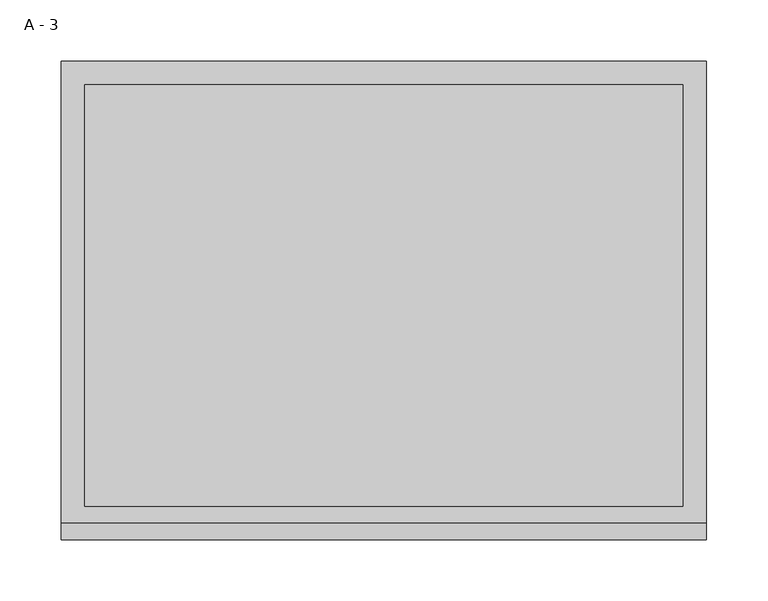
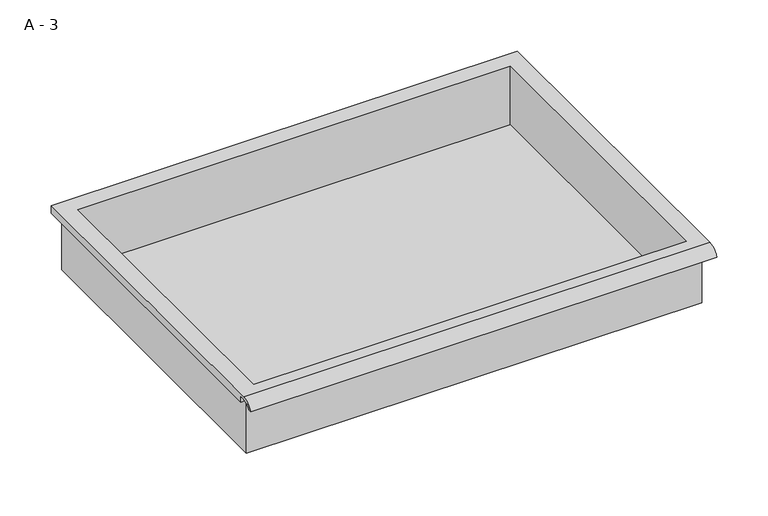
"""IFC4 building model written with IfcOpenShell, lengths in millimetres: furniture geometry, HermanMiller_CoStruc_CO207_Drawer : A - 3."""

from ifc_helpers import new_model, si_unit, frame, origin, place, context, project, spatial, polyline, circle_curve, source, transform, mapped, element, save
from ifc_brep_helpers import plane_surface, cylinder_surface, revolved_surface, advanced_brep


def a_3_65d9b637(model_context):
    return source(origin(), model_context, "Body", "AdvancedBrep", [
        advanced_brep(
        [(-257.1076517, -176.2125, 698.4111), (257.2423483, -176.2125, 698.4111), (257.2423483, -176.2125, 761.9111), (263.5923483, -176.2125, 761.9111), (263.5923483, -176.2125, 768.2182341), (-263.4576517, -176.2125, 768.2182341), (-263.4576517, -176.2125, 761.9111), (-257.1076517, -176.2125, 761.9111), (257.2423483, 185.7375, 698.4111), (-257.1076517, 185.7375, 698.4111), (-257.1076517, 185.7375, 761.9111), (257.2423483, 185.7375, 761.9111), (263.5923483, -181.6070544, 771.4361), (263.5923483, 195.2625, 771.4361), (-263.4576517, 195.2625, 771.4361), (-263.4576517, -181.6070544, 771.4361), (244.5423483, -168.275, 771.4361), (-244.4076517, -168.275, 771.4361), (-244.4076517, 176.2125, 771.4361), (244.5423483, 176.2125, 771.4361), (263.5923483, -195.2625, 761.9111), (263.5923483, -191.8280601, 761.9111), (263.5923483, -180.4714815, 768.2182341), (263.5923483, 195.2625, 761.9111), (-263.4576517, 195.2625, 761.9111), (-263.4576517, -180.4714815, 768.2182341), (-263.4576517, -191.8280601, 761.9111), (-263.4576517, -195.2625, 761.9111), (-244.4076517, -168.275, 701.4372719), (244.5423483, -168.275, 701.4372719), (244.5423483, 176.2125, 701.4372719), (-244.4076517, 176.2125, 701.4372719)],
        [
            (0, 1),
            (1, 2),
            (2, 3),
            (3, 4),
            (4, 5),
            (5, 6),
            (6, 7),
            (7, 0),
            (8, 9),
            (9, 10),
            (10, 11),
            (11, 8),
            (0, 9),
            (8, 1),
            (11, 2),
            (12, 13),
            (13, 14),
            (14, 15),
            (15, 12),
            (16, 17),
            (17, 18),
            (18, 19),
            (19, 16),
            (7, 10),
            (12, 20, circle_curve(frame((263.5923483, -181.6070544, 756.8850859), z_axis=(1.0, 0.0, 0.0), x_axis=(0.0, 1.0, 0.0)), 14.5510141)),
            (20, 21),
            (21, 22, circle_curve(frame((263.5923483, -181.6070544, 756.8850859), z_axis=(-1.0, 0.0, 0.0), x_axis=(0.0, 1.0, 0.0)), 11.3898979)),
            (22, 4),
            (3, 23),
            (23, 13),
            (14, 24),
            (24, 6),
            (5, 25),
            (25, 26, circle_curve(frame((-263.4576517, -181.6070544, 756.8850859), z_axis=(1.0, 0.0, 0.0), x_axis=(0.0, 1.0, 0.0)), 11.3898979)),
            (26, 27),
            (27, 15, circle_curve(frame((-263.4576517, -181.6070544, 756.8850859), z_axis=(-1.0, 0.0, 0.0), x_axis=(0.0, 1.0, 0.0)), 14.5510141)),
            (27, 20),
            (26, 21),
            (25, 22),
            (24, 23),
            (28, 29),
            (29, 30),
            (30, 31),
            (31, 28),
            (28, 17),
            (16, 29),
            (19, 30),
            (18, 31),
        ],
        [
            plane_surface(frame((257.2423483, -176.2125, 698.4111), z_axis=(0.0, -1.0, 0.0), x_axis=(1.0, 0.0, 0.0))),
            plane_surface(frame((257.2423483, 185.7375, 698.4111), z_axis=(0.0, 1.0, 0.0), x_axis=(-1.0, 0.0, 0.0))),
            plane_surface(frame((-257.1076517, -176.2125, 698.4111), z_axis=(0.0, 0.0, -1.0), x_axis=(0.0, 1.0, 0.0))),
            plane_surface(frame((257.2423483, -176.2125, 698.4111), z_axis=(1.0, 0.0, 0.0), x_axis=(0.0, 1.0, 0.0))),
            plane_surface(frame((257.2423483, -176.2125, 771.4361), z_axis=(0.0, 0.0, 1.0), x_axis=(0.0, 1.0, 0.0))),
            plane_surface(frame((-257.1076517, -176.2125, 771.4361), z_axis=(-1.0, 0.0, 0.0), x_axis=(0.0, 1.0, 0.0))),
            plane_surface(frame((263.5923483, 195.2625, 771.4361), z_axis=(1.0, 0.0, 0.0), x_axis=(0.0, -1.0, 0.0))),
            plane_surface(frame((-263.4576517, 195.2625, 771.4361), z_axis=(-1.0, 0.0, 0.0), x_axis=(0.0, 1.0, 0.0))),
            cylinder_surface(frame((-263.4576517, -181.6070544, 756.8850859), z_axis=(1.0, 0.0, 0.0), x_axis=(0.0, 1.0, 0.0)), 14.5510141),
            plane_surface(frame((263.5923483, -195.2625, 761.9111), z_axis=(0.0, -7.291233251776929e-12, -1.0), x_axis=(-1.0, 0.0, 0.0))),
            revolved_surface(polyline([(-263.4576517, -170.21715650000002, 756.8850859), (263.59234829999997, -170.21715650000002, 756.8850859)]), (-263.4576517, -181.6070544, 756.8850859), (-1.0, 0.0, 0.0)),
            plane_surface(frame((263.5923483, -180.4714815, 768.2182341), z_axis=(0.0, -1.8020319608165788e-11, -1.0), x_axis=(-1.0, 0.0, 0.0))),
            plane_surface(frame((263.5923483, -176.2125, 761.9111), z_axis=(0.0, 0.0, -1.0), x_axis=(-1.0, 0.0, 0.0))),
            plane_surface(frame((263.5923483, 195.2625, 761.9111), z_axis=(0.0, 1.0, 0.0), x_axis=(-1.0, 0.0, 0.0))),
            plane_surface(frame((244.5423483, -168.275, 701.4372719), z_axis=(0.0, 0.0, 1.0), x_axis=(-1.0, 0.0, 0.0))),
            plane_surface(frame((-244.4076517, -168.275, 771.4361), z_axis=(0.0, 1.0, 0.0), x_axis=(0.0, 0.0, -1.0))),
            plane_surface(frame((244.5423483, -168.275, 771.4361), z_axis=(-1.0, 0.0, 0.0), x_axis=(0.0, 0.0, -1.0))),
            plane_surface(frame((244.5423483, 176.2125, 771.4361), z_axis=(0.0, -1.0, 0.0), x_axis=(0.0, 0.0, -1.0))),
            plane_surface(frame((-244.4076517, 176.2125, 771.4361), z_axis=(1.0, 0.0, 0.0), x_axis=(0.0, 0.0, -1.0))),
        ],
        [
            (0, [[1, 2, 3, 4, 5, 6, 7, 8]]),
            (1, [[9, 10, 11, 12]]),
            (2, [[-1, 13, -9, 14]]),
            (3, [[-14, -12, 15, -2]]),
            (4, [[16, 17, 18, 19], [20, 21, 22, 23]]),
            (5, [[-13, -8, 24, -10]]),
            (6, [[-16, 25, 26, 27, 28, -4, 29, 30]]),
            (7, [[31, 32, -6, 33, 34, 35, 36, -18]]),
            (8, [[-25, -19, -36, 37]]),
            (9, [[-26, -37, -35, 38]]),
            (10, [[-27, -38, -34, 39]]),
            (11, [[-28, -39, -33, -5]]),
            (12, [[-29, -3, -15, -11, -24, -7, -32, 40]]),
            (13, [[-30, -40, -31, -17]]),
            (14, [[41, 42, 43, 44]]),
            (15, [[-41, 45, -20, 46]]),
            (16, [[-42, -46, -23, 47]]),
            (17, [[-43, -47, -22, 48]]),
            (18, [[-44, -48, -21, -45]]),
        ],
    ),
    ])


if __name__ == "__main__":
    model = new_model("IFC4")
    model_context = context("Model", 3, world=origin())
    ifc_project = project(units=[si_unit("LENGTHUNIT", "METRE", prefix="MILLI")], contexts=[model_context])
    site = spatial("IfcSite", under=ifc_project)
    building = spatial("IfcBuilding", under=site)
    placement = place(None, origin())
    a_3_shape = a_3_65d9b637(model_context)
    element("IfcFurniture", 1, ObjectType="HermanMiller_CoStruc_CO207_Drawer : A - 3", at=placement, inside=building, context=model_context, shape_type="MappedRepresentation", body=[
        mapped(a_3_shape, transform((0.0, 0.0, 0.0), x_axis=(1.0, 0.0, 0.0), y_axis=(0.0, 1.0, 0.0), z_axis=(0.0, 0.0, 1.0))),
    ])
    save(model, "model.ifc")
